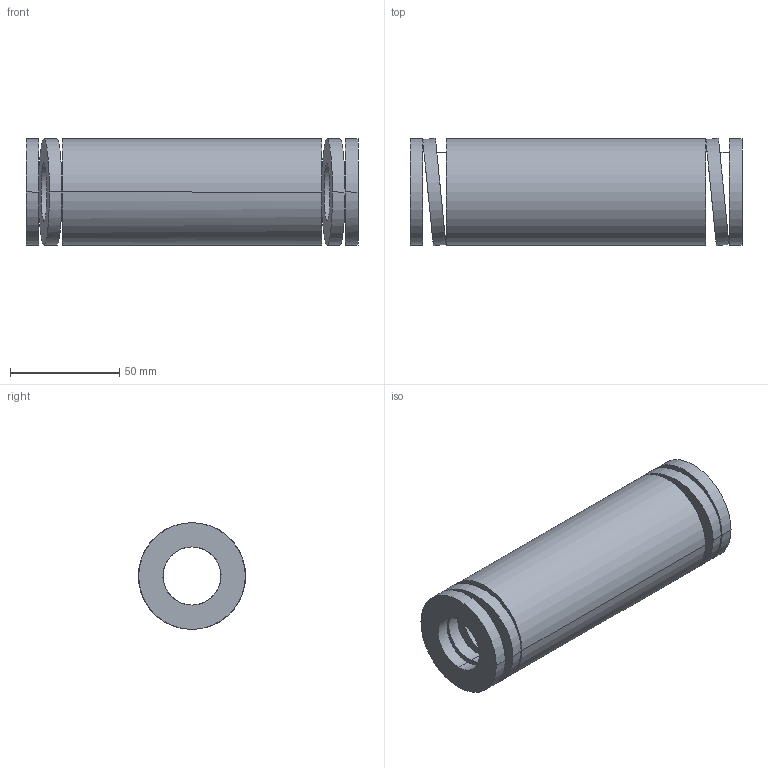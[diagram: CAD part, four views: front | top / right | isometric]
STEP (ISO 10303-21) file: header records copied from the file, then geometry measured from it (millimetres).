
FILE_DESCRIPTION(('CATIA V5 STEP Exchange'),'2;1');
FILE_NAME('C:\Users\Utente\Desktop\IO LAVORO\3D X SITO CF\X SITO\3D files 392B\392-B50-152.stp','2021-08-13T11:27:04+00:00',('none'),('none'),'CATIA Version 5 Release 20 GA (IN-10)','CATIA V5 STEP AP203','none');
FILE_SCHEMA(('CONFIG_CONTROL_DESIGN'));
Length unit declared in the file: millimetre
Products named in the file (1): 392-B50-152
Bounding box: 152 x 49.13 x 48.8 mm (x, y, z)
Volume: 186650.2 mm3; surface area: 46782.8 mm2
Topology: 1 solids, 1 shells, 38 faces, 92 edges, 64 vertices
Faces by surface type: cylinder 28, plane 10
Entity records: 1626 total; most frequent: CARTESIAN_POINT 747, ORIENTED_EDGE 184, DIRECTION 124, EDGE_CURVE 92, VERTEX_POINT 64, AXIS2_PLACEMENT_3D 59, EDGE_LOOP 56, B_SPLINE_CURVE_WITH_KNOTS 44
